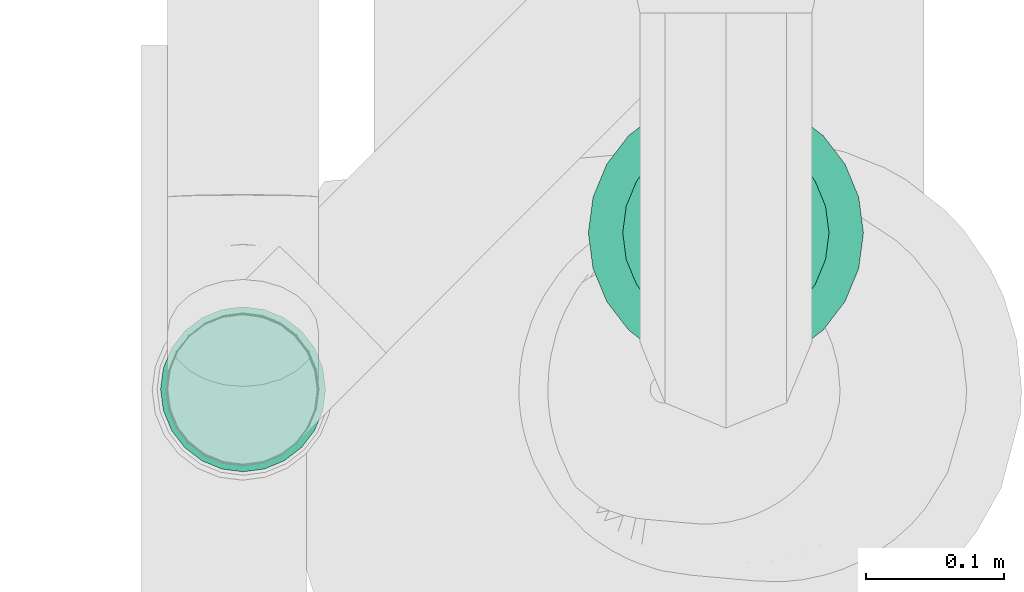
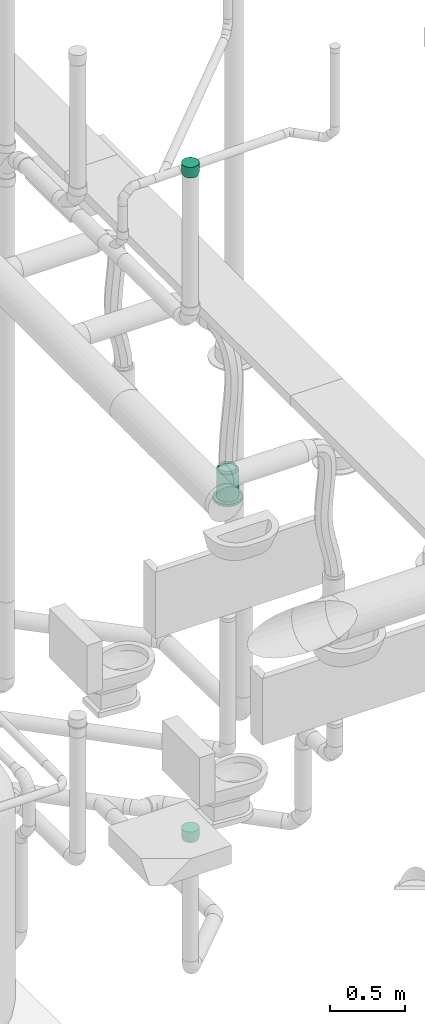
# One storey, part 122 of 374: 2 flow fittings, 1 flow terminal.
"""IFC2X3 building model written with IfcOpenShell, lengths in metres."""

from ifc_helpers import new_model, si_unit, direction, origin, place, context, subcontext, project, spatial, open_shell, surface_model, source, transform, mapped, element, save


model = new_model("IFC2X3")

# Units and contexts
model_context = context("Model", 3, precision=1e-05, world=origin(), true_north=direction((-0.4480736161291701, 0.8939966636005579)))
body_context = subcontext(model_context, "Body", "Model", "MODEL_VIEW")
ifc_project = project(units=[si_unit("LENGTHUNIT", "METRE"), si_unit("AREAUNIT", "SQUARE_METRE"), si_unit("VOLUMEUNIT", "CUBIC_METRE"), si_unit("PLANEANGLEUNIT", "RADIAN"), si_unit("THERMODYNAMICTEMPERATUREUNIT", "KELVIN"), si_unit("MASSUNIT", "GRAM", prefix="KILO"), si_unit("TIMEUNIT", "SECOND")], contexts=[model_context])

# Site, building, storey
site_placement = place(None, origin())
site = spatial("IfcSite", under=ifc_project, at=site_placement, Name="Site 1", CompositionType="ELEMENT")
building_placement = place(site_placement, origin())
building = spatial("IfcBuilding", under=site, at=building_placement, Name="Undefined", CompositionType="ELEMENT")
storey_placement = place(building_placement, origin())
storey = spatial("IfcBuildingStorey", under=building, at=storey_placement, Name="Rez de chauss\x8ee", CompositionType="ELEMENT", Elevation=0.0)

# Flow terminal
shared_shape_1 = source(origin(), body_context, "Body", "SurfaceModel", [
    surface_model("IfcFaceBasedSurfaceModel", [(0.0, 0.0, 0.0), (0.026105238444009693, 0.0, 7.105427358e-15), (0.026105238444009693, 0.020000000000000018, 7.105427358e-15), (3.552713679e-15, 0.020000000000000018, 0.0), (0.05132096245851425, 0.0, -0.00675653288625), (0.05132096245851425, 0.020000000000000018, -0.00675653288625), (0.07392876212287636, 0.0, -0.019809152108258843), (0.07392876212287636, 0.020000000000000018, -0.019809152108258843), (0.09238795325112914, 0.0, -0.03826834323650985), (0.09238795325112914, 0.020000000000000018, -0.03826834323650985), (0.10544057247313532, 0.0, -0.06087614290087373), (0.10544057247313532, 0.020000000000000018, -0.06087614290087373), (0.11219710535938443, 0.0, -0.08609186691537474), (0.11219710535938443, 0.020000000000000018, -0.08609186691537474), (0.11219710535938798, 0.0, -0.11219710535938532), (0.11219710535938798, 0.020000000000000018, -0.11219710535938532), (0.10544057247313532, 0.0, -0.13741282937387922), (0.10544057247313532, 0.020000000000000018, -0.13741282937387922), (0.09238795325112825, 0.0, -0.1600206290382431), (0.09238795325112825, 0.020000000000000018, -0.1600206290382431), (0.07392876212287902, 0.0, -0.1784798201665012), (0.07392876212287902, 0.020000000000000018, -0.1784798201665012), (0.05132096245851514, 0.0, -0.19153243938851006), (0.05132096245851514, 0.020000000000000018, -0.19153243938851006), (0.02610523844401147, 0.0, -0.19828897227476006), (0.02610523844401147, 0.020000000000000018, -0.19828897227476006), (0.0, -7.105427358e-15, -0.19828897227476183), (1.776356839e-15, 0.020000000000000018, -0.19828897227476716), (-0.02521572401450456, 0.0, -0.19153243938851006), (-0.02521572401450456, 0.020000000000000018, -0.19153243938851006), (-0.047823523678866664, 0.0, -0.1784798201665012), (-0.047823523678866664, 0.020000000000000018, -0.1784798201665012), (-0.06628271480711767, 0.0, -0.1600206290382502), (-0.06628271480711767, 0.020000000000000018, -0.1600206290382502), (-0.07933533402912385, 0.0, -0.13741282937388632), (-0.07933533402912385, 0.020000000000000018, -0.13741282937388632), (-0.08609186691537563, 0.0, -0.11219710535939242), (-0.08609186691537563, 0.020000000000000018, -0.11219710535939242), (-0.08609186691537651, 0.0, -0.08609186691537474), (-0.08609186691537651, 0.020000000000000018, -0.08609186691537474), (-0.07933533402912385, 0.0, -0.060876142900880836), (-0.07933533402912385, 0.020000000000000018, -0.060876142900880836), (-0.06628271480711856, 0.0, -0.038268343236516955), (-0.06628271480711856, 0.020000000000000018, -0.038268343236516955), (-0.04782352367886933, 0.0, -0.019809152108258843), (-0.04782352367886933, 0.020000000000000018, -0.019809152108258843), (-0.02521572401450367, 0.0, -0.00675653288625), (-0.02521572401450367, 0.020000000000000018, -0.00675653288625), (0.013052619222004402, 0.0, -0.09914448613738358), (0.013052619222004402, 0.020000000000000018, -0.09914448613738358), (0.003263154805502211, 0.020000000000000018, -0.02478612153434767), (0.022842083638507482, 0.020000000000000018, -0.024786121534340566), (0.022842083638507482, 0.2400000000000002, -0.024786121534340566), (0.0032631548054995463, 0.2400000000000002, -0.024786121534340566), (0.04175387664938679, 0.020000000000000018, -0.029853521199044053), (0.04175387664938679, 0.2400000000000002, -0.029853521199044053), (0.058709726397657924, 0.020000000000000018, -0.03964298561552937), (0.058709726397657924, 0.2400000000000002, -0.03964298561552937), (0.07255411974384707, 0.020000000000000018, -0.053487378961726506), (0.07255411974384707, 0.2400000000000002, -0.053487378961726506), (0.08234358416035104, 0.020000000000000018, -0.07044322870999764), (0.08234358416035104, 0.2400000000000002, -0.07044322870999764), (0.08741098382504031, 0.020000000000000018, -0.08935502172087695), (0.08741098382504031, 0.2400000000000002, -0.08935502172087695), (0.08741098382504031, 0.020000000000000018, -0.108933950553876), (0.08741098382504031, 0.2400000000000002, -0.108933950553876), (0.08234358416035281, 0.020000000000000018, -0.12784574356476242), (0.08234358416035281, 0.2400000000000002, -0.12784574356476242), (0.07255411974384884, 0.020000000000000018, -0.14480159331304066), (0.07255411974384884, 0.2400000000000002, -0.14480159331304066), (0.05870972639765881, 0.020000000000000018, -0.15864598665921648), (0.05870972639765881, 0.2400000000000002, -0.15864598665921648), (0.04175387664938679, 0.020000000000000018, -0.1684354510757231), (0.04175387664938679, 0.2400000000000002, -0.1684354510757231), (0.022842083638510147, 0.020000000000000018, -0.1735028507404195), (0.022842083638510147, 0.2400000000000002, -0.1735028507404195), (0.0032631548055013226, 0.020000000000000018, -0.1735028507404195), (0.0032631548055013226, 0.2400000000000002, -0.1735028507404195), (-0.015648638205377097, 0.020000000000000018, -0.168435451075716), (-0.015648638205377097, 0.2400000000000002, -0.168435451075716), (-0.032604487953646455, 0.020000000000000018, -0.1586459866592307), (-0.032604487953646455, 0.2400000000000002, -0.1586459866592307), (-0.0464488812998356, 0.020000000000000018, -0.14480159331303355), (-0.0464488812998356, 0.2400000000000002, -0.14480159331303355), (-0.05623834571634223, 0.020000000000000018, -0.1278457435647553), (-0.05623834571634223, 0.2400000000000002, -0.1278457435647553), (-0.06130574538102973, 0.020000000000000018, -0.10893395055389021), (-0.06130574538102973, 0.2400000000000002, -0.10893395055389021), (-0.06130574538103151, 0.020000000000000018, -0.08935502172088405), (-0.06130574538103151, 0.2400000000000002, -0.08935502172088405), (-0.05623834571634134, 0.020000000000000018, -0.07044322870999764), (-0.05623834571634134, 0.2400000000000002, -0.07044322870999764), (-0.046448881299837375, 0.020000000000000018, -0.0534873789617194), (-0.046448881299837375, 0.2400000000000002, -0.0534873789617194), (-0.03260448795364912, 0.020000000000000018, -0.03964298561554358), (-0.03260448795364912, 0.2400000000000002, -0.03964298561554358), (-0.015648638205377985, 0.020000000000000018, -0.029853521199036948), (-0.015648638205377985, 0.2400000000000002, -0.029853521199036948), (0.013052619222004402, 0.2400000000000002, -0.09914448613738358), (0.004894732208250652, 0.2400000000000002, -0.0371791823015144), (0.02121050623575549, 0.2400000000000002, -0.03717918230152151), (0.02121050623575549, 0.26000000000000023, -0.03717918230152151), (0.004894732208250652, 0.26000000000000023, -0.0371791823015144), (0.03697033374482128, 0.2400000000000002, -0.041402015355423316), (0.03697033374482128, 0.26000000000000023, -0.041402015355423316), (0.05110020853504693, 0.2400000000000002, -0.04955990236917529), (0.05110020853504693, 0.26000000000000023, -0.04955990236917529), (0.06263720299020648, 0.2400000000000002, -0.06109689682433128), (0.06263720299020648, 0.26000000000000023, -0.06109689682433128), (0.070795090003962, 0.2400000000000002, -0.0752267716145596), (0.070795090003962, 0.26000000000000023, -0.0752267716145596), (0.07501792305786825, 0.2400000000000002, -0.0909865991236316), (0.07501792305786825, 0.26000000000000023, -0.0909865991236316), (0.07501792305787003, 0.2400000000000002, -0.10730237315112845), (0.07501792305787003, 0.26000000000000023, -0.10730237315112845), (0.07079509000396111, 0.2400000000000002, -0.12306220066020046), (0.07079509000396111, 0.26000000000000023, -0.12306220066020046), (0.06263720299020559, 0.2400000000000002, -0.13719207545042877), (0.06263720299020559, 0.26000000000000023, -0.13719207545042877), (0.051100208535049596, 0.2400000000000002, -0.14872906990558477), (0.051100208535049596, 0.26000000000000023, -0.14872906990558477), (0.03697033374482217, 0.2400000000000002, -0.15688695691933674), (0.03697033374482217, 0.26000000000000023, -0.15688695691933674), (0.02121050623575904, 0.2400000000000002, -0.16110978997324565), (0.02121050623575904, 0.26000000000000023, -0.16110978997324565), (0.004894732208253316, 0.2400000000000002, -0.16110978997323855), (0.004894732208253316, 0.26000000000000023, -0.16110978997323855), (-0.010865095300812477, 0.2400000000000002, -0.15688695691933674), (-0.010865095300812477, 0.26000000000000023, -0.15688695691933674), (-0.02499497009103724, 0.2400000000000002, -0.14872906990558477), (-0.02499497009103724, 0.26000000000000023, -0.14872906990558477), (-0.03653196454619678, 0.2400000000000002, -0.13719207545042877), (-0.03653196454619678, 0.26000000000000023, -0.13719207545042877), (-0.04468985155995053, 0.2400000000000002, -0.12306220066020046), (-0.04468985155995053, 0.26000000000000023, -0.12306220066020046), (-0.04891268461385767, 0.2400000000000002, -0.10730237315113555), (-0.04891268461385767, 0.26000000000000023, -0.10730237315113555), (-0.04891268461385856, 0.2400000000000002, -0.0909865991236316), (-0.04891268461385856, 0.26000000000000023, -0.0909865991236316), (-0.04468985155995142, 0.2400000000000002, -0.0752267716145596), (-0.04468985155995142, 0.26000000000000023, -0.0752267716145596), (-0.036531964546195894, 0.2400000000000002, -0.06109689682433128), (-0.036531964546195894, 0.26000000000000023, -0.06109689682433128), (-0.02499497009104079, 0.2400000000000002, -0.04955990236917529), (-0.02499497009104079, 0.26000000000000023, -0.04955990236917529), (-0.010865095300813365, 0.2400000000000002, -0.041402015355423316), (-0.010865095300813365, 0.26000000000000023, -0.041402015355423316)], [open_shell([[[0, 1, 2, 3]], [[1, 4, 5, 2]], [[4, 6, 7, 5]], [[6, 8, 9, 7]], [[8, 10, 11, 9]], [[10, 12, 13, 11]], [[12, 14, 15, 13]], [[14, 16, 17, 15]], [[16, 18, 19, 17]], [[18, 20, 21, 19]], [[20, 22, 23, 21]], [[22, 24, 25, 23]], [[24, 26, 27, 25]], [[26, 28, 29, 27]], [[28, 30, 31, 29]], [[30, 32, 33, 31]], [[32, 34, 35, 33]], [[34, 36, 37, 35]], [[36, 38, 39, 37]], [[38, 40, 41, 39]], [[40, 42, 43, 41]], [[42, 44, 45, 43]], [[44, 46, 47, 45]], [[46, 0, 3, 47]], [[48, 1, 0]], [[48, 4, 1]], [[48, 6, 4]], [[48, 8, 6]], [[48, 10, 8]], [[48, 12, 10]], [[48, 14, 12]], [[48, 16, 14]], [[48, 18, 16]], [[48, 20, 18]], [[48, 22, 20]], [[48, 24, 22]], [[48, 26, 24]], [[48, 28, 26]], [[48, 30, 28]], [[48, 32, 30]], [[48, 34, 32]], [[48, 36, 34]], [[48, 38, 36]], [[48, 40, 38]], [[48, 42, 40]], [[48, 44, 42]], [[48, 46, 44]], [[48, 0, 46]], [[49, 47, 3]], [[49, 45, 47]], [[49, 43, 45]], [[49, 41, 43]], [[49, 39, 41]], [[49, 37, 39]], [[49, 35, 37]], [[49, 33, 35]], [[49, 31, 33]], [[49, 29, 31]], [[49, 27, 29]], [[49, 25, 27]], [[49, 23, 25]], [[49, 21, 23]], [[49, 19, 21]], [[49, 17, 19]], [[49, 15, 17]], [[49, 13, 15]], [[49, 11, 13]], [[49, 9, 11]], [[49, 7, 9]], [[49, 5, 7]], [[49, 2, 5]], [[49, 3, 2]], [[50, 51, 52, 53]], [[51, 54, 55, 52]], [[54, 56, 57, 55]], [[56, 58, 59, 57]], [[58, 60, 61, 59]], [[60, 62, 63, 61]], [[62, 64, 65, 63]], [[64, 66, 67, 65]], [[66, 68, 69, 67]], [[68, 70, 71, 69]], [[70, 72, 73, 71]], [[72, 74, 75, 73]], [[74, 76, 77, 75]], [[76, 78, 79, 77]], [[78, 80, 81, 79]], [[80, 82, 83, 81]], [[82, 84, 85, 83]], [[84, 86, 87, 85]], [[86, 88, 89, 87]], [[88, 90, 91, 89]], [[90, 92, 93, 91]], [[92, 94, 95, 93]], [[94, 96, 97, 95]], [[96, 50, 53, 97]], [[49, 51, 50]], [[49, 54, 51]], [[49, 56, 54]], [[49, 58, 56]], [[49, 60, 58]], [[49, 62, 60]], [[49, 64, 62]], [[49, 66, 64]], [[49, 68, 66]], [[49, 70, 68]], [[49, 72, 70]], [[49, 74, 72]], [[49, 76, 74]], [[49, 78, 76]], [[49, 80, 78]], [[49, 82, 80]], [[49, 84, 82]], [[49, 86, 84]], [[49, 88, 86]], [[49, 90, 88]], [[49, 92, 90]], [[49, 94, 92]], [[49, 96, 94]], [[49, 50, 96]], [[98, 97, 53]], [[98, 95, 97]], [[98, 93, 95]], [[98, 91, 93]], [[98, 89, 91]], [[98, 87, 89]], [[98, 85, 87]], [[98, 83, 85]], [[98, 81, 83]], [[98, 79, 81]], [[98, 77, 79]], [[98, 75, 77]], [[98, 73, 75]], [[98, 71, 73]], [[98, 69, 71]], [[98, 67, 69]], [[98, 65, 67]], [[98, 63, 65]], [[98, 61, 63]], [[98, 59, 61]], [[98, 57, 59]], [[98, 55, 57]], [[98, 52, 55]], [[98, 53, 52]], [[99, 100, 101, 102]], [[100, 103, 104, 101]], [[103, 105, 106, 104]], [[105, 107, 108, 106]], [[107, 109, 110, 108]], [[109, 111, 112, 110]], [[111, 113, 114, 112]], [[113, 115, 116, 114]], [[115, 117, 118, 116]], [[117, 119, 120, 118]], [[119, 121, 122, 120]], [[121, 123, 124, 122]], [[123, 125, 126, 124]], [[125, 127, 128, 126]], [[127, 129, 130, 128]], [[129, 131, 132, 130]], [[131, 133, 134, 132]], [[133, 135, 136, 134]], [[135, 137, 138, 136]], [[137, 139, 140, 138]], [[139, 141, 142, 140]], [[141, 143, 144, 142]], [[143, 145, 146, 144]], [[145, 99, 102, 146]]])]),
])
flow_terminal_placement = place(storey_placement, origin())
element("IfcFlowTerminal", 1, at=flow_terminal_placement, inside=storey, Name="Air diffuseur - bouche", ObjectType="Air diffuseur - bouche", context=body_context, shape_type="MappedRepresentation", body=[
    mapped(shared_shape_1, transform((57.32499999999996, 11.424733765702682, 2.48), x_axis=(0.13052619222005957, -0.9914448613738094, 0.0), y_axis=(0.0, 0.0, 1.0), z_axis=(-0.9914448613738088, -0.13052619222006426, 0.0))),
])

# Flow fittings
shared_shape_2 = source(origin(), body_context, "Body", "SurfaceModel", [
    surface_model("IfcFaceBasedSurfaceModel", [(0.0, 0.015663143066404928, 0.0), (0.0, 0.0, 0.0), (0.06999999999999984, 0.0, 0.0), (0.06999999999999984, 0.015663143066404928, 0.0), (0.0, -0.015129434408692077, -0.004053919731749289), (0.06999999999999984, -0.015129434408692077, -0.004053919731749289), (0.0, -0.028694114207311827, -0.011885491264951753), (0.06999999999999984, -0.028694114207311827, -0.011885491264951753), (0.0, -0.03976962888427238, -0.022961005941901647), (0.06999999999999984, -0.03976962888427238, -0.022961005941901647), (0.0, -0.04760120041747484, -0.036525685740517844), (0.06999999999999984, -0.04760120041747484, -0.036525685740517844), (0.0, -0.051655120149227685, -0.05165512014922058), (0.06999999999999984, -0.051655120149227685, -0.05165512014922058), (0.0, -0.05165512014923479, -0.0673182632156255), (0.06999999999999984, -0.05165512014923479, -0.0673182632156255), (0.0, -0.04760120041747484, -0.0824476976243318), (0.06999999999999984, -0.04760120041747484, -0.0824476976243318), (0.0, -0.03976962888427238, -0.09601237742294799), (0.06999999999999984, -0.03976962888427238, -0.09601237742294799), (0.0, -0.028694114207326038, -0.10708789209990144), (0.06999999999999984, -0.028694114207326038, -0.10708789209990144), (0.0, -0.015129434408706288, -0.1149194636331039), (0.06999999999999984, -0.015129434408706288, -0.1149194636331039), (0.0, -1.4210854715e-14, -0.11897338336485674), (0.06999999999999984, -1.4210854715e-14, -0.11897338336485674), (0.0, 0.015663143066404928, -0.11897338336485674), (0.06999999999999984, 0.015663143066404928, -0.11897338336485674), (0.0, 0.030792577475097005, -0.11491946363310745), (0.06999999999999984, 0.030792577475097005, -0.11491946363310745), (0.0, 0.044357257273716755, -0.10708789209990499), (0.06999999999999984, 0.044357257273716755, -0.10708789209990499), (0.0, 0.0554327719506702, -0.0960123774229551), (0.06999999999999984, 0.0554327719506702, -0.0960123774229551), (0.0, 0.06326434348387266, -0.0824476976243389), (0.06999999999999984, 0.06326434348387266, -0.0824476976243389), (0.0, 0.0673182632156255, -0.06731826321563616), (0.06999999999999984, 0.0673182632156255, -0.06731826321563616), (0.0, 0.06731826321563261, -0.05165512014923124), (0.06999999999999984, 0.06731826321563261, -0.05165512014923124), (0.0, 0.06326434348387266, -0.0365256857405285), (0.06999999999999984, 0.06326434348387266, -0.0365256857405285), (0.0, 0.055432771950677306, -0.022961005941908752), (0.06999999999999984, 0.055432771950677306, -0.022961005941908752), (0.0, 0.044357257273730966, -0.011885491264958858), (0.06999999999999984, 0.044357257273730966, -0.011885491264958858), (0.0, 0.030792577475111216, -0.004053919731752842), (0.06999999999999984, 0.030792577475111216, -0.004053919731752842), (0.0, 0.007831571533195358, -0.059486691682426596), (0.06999999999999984, 0.007831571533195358, -0.059486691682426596), (0.06999999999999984, 0.015010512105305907, -0.004957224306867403), (0.06999999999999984, 0.0006526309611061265, -0.004957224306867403), (0.08999999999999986, 0.0006526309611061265, -0.004957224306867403), (0.08999999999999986, 0.015010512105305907, -0.004957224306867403), (0.06999999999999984, -0.013216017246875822, -0.008673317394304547), (0.08999999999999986, -0.013216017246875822, -0.008673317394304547), (0.06999999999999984, -0.025650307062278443, -0.01585225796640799), (0.08999999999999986, -0.025650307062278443, -0.01585225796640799), (0.06999999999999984, -0.03580286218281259, -0.02600481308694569), (0.08999999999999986, -0.03580286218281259, -0.02600481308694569), (0.06999999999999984, -0.04298180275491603, -0.038439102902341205), (0.08999999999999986, -0.04298180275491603, -0.038439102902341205), (0.06999999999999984, -0.046697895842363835, -0.0523077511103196), (0.08999999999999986, -0.046697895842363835, -0.0523077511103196), (0.06999999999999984, -0.046697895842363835, -0.06666563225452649), (0.08999999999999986, -0.046697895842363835, -0.06666563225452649), (0.06999999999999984, -0.04298180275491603, -0.08053428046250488), (0.08999999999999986, -0.04298180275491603, -0.08053428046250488), (0.06999999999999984, -0.035802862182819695, -0.09296857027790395), (0.08999999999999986, -0.035802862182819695, -0.09296857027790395), (0.06999999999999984, -0.025650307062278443, -0.10312112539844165), (0.08999999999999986, -0.025650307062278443, -0.10312112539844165), (0.06999999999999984, -0.013216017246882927, -0.11030006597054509), (0.08999999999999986, -0.013216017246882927, -0.11030006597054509), (0.06999999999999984, 0.0006526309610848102, -0.11401615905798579), (0.08999999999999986, 0.0006526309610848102, -0.11401615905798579), (0.06999999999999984, 0.015010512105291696, -0.11401615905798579), (0.08999999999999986, 0.015010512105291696, -0.11401615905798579), (0.06999999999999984, 0.02887916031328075, -0.1103000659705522), (0.08999999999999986, 0.02887916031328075, -0.1103000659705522), (0.06999999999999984, 0.041313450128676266, -0.10312112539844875), (0.08999999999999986, 0.041313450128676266, -0.10312112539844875), (0.06999999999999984, 0.05146600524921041, -0.09296857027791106), (0.08999999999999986, 0.05146600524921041, -0.09296857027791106), (0.06999999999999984, 0.058644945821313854, -0.08053428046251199), (0.08999999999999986, 0.058644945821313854, -0.08053428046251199), (0.06999999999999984, 0.06236103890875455, -0.06666563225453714), (0.08999999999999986, 0.06236103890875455, -0.06666563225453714), (0.06999999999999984, 0.06236103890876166, -0.05230775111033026), (0.08999999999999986, 0.06236103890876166, -0.05230775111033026), (0.06999999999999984, 0.058644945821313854, -0.03843910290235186), (0.08999999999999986, 0.058644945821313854, -0.03843910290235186), (0.06999999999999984, 0.05146600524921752, -0.026004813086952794), (0.08999999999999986, 0.05146600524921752, -0.026004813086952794), (0.06999999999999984, 0.04131345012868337, -0.015852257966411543), (0.08999999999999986, 0.04131345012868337, -0.015852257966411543), (0.06999999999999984, 0.02887916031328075, -0.0086733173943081), (0.08999999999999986, 0.02887916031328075, -0.0086733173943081)], [open_shell([[[0, 1, 2, 3]], [[1, 4, 5, 2]], [[4, 6, 7, 5]], [[6, 8, 9, 7]], [[8, 10, 11, 9]], [[10, 12, 13, 11]], [[12, 14, 15, 13]], [[14, 16, 17, 15]], [[16, 18, 19, 17]], [[18, 20, 21, 19]], [[20, 22, 23, 21]], [[22, 24, 25, 23]], [[24, 26, 27, 25]], [[26, 28, 29, 27]], [[28, 30, 31, 29]], [[30, 32, 33, 31]], [[32, 34, 35, 33]], [[34, 36, 37, 35]], [[36, 38, 39, 37]], [[38, 40, 41, 39]], [[40, 42, 43, 41]], [[42, 44, 45, 43]], [[44, 46, 47, 45]], [[46, 0, 3, 47]], [[48, 1, 0]], [[48, 4, 1]], [[48, 6, 4]], [[48, 8, 6]], [[48, 10, 8]], [[48, 12, 10]], [[48, 14, 12]], [[48, 16, 14]], [[48, 18, 16]], [[48, 20, 18]], [[48, 22, 20]], [[48, 24, 22]], [[48, 26, 24]], [[48, 28, 26]], [[48, 30, 28]], [[48, 32, 30]], [[48, 34, 32]], [[48, 36, 34]], [[48, 38, 36]], [[48, 40, 38]], [[48, 42, 40]], [[48, 44, 42]], [[48, 46, 44]], [[48, 0, 46]], [[49, 47, 3]], [[49, 45, 47]], [[49, 43, 45]], [[49, 41, 43]], [[49, 39, 41]], [[49, 37, 39]], [[49, 35, 37]], [[49, 33, 35]], [[49, 31, 33]], [[49, 29, 31]], [[49, 27, 29]], [[49, 25, 27]], [[49, 23, 25]], [[49, 21, 23]], [[49, 19, 21]], [[49, 17, 19]], [[49, 15, 17]], [[49, 13, 15]], [[49, 11, 13]], [[49, 9, 11]], [[49, 7, 9]], [[49, 5, 7]], [[49, 2, 5]], [[49, 3, 2]], [[50, 51, 52, 53]], [[51, 54, 55, 52]], [[54, 56, 57, 55]], [[56, 58, 59, 57]], [[58, 60, 61, 59]], [[60, 62, 63, 61]], [[62, 64, 65, 63]], [[64, 66, 67, 65]], [[66, 68, 69, 67]], [[68, 70, 71, 69]], [[70, 72, 73, 71]], [[72, 74, 75, 73]], [[74, 76, 77, 75]], [[76, 78, 79, 77]], [[78, 80, 81, 79]], [[80, 82, 83, 81]], [[82, 84, 85, 83]], [[84, 86, 87, 85]], [[86, 88, 89, 87]], [[88, 90, 91, 89]], [[90, 92, 93, 91]], [[92, 94, 95, 93]], [[94, 96, 97, 95]], [[96, 50, 53, 97]]])]),
])
flow_fitting_1_placement = place(storey_placement, origin())
element("IfcFlowFitting", 2, at=flow_fitting_1_placement, inside=storey, Name="PE-HD manchon pour WC au sol", ObjectType="PE-HD manchon pour WC au sol", context=body_context, shape_type="MappedRepresentation", body=[
    mapped(shared_shape_2, transform((57.05847085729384, 11.253044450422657, 0.0), x_axis=(0.0, 0.0, -1.0), y_axis=(0.9914448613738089, -0.13052619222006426, 0.0), z_axis=(-0.13052619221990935, -0.9914448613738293, 0.0))),
])
flow_fitting_2_placement = place(storey_placement, origin())
element("IfcFlowFitting", 3, at=flow_fitting_2_placement, inside=storey, Name="PE-HD manchon pour WC au sol", ObjectType="PE-HD manchon pour WC au sol", context=body_context, shape_type="MappedRepresentation", body=[
    mapped(shared_shape_2, transform((57.08952914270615, 11.368955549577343, 5.40140827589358), x_axis=(0.0, 0.0, -1.0), y_axis=(-0.9914448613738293, 0.13052619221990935, 0.0), z_axis=(0.13052619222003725, 0.9914448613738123, 0.0))),
])

save(model, "model.ifc")
